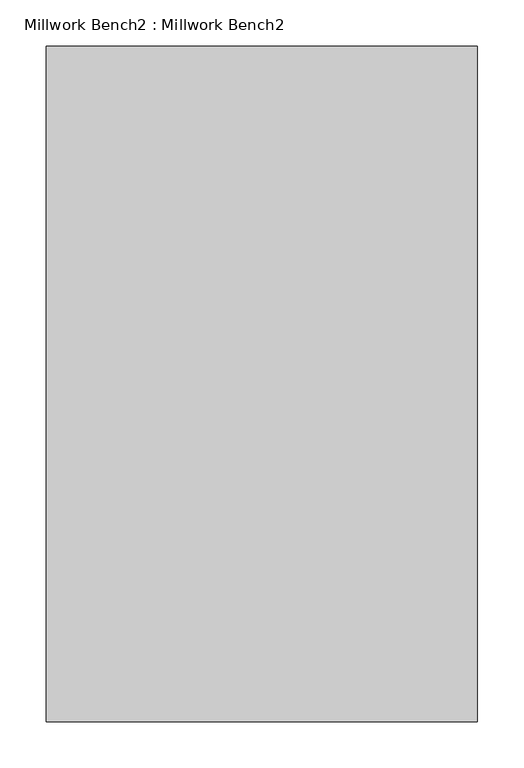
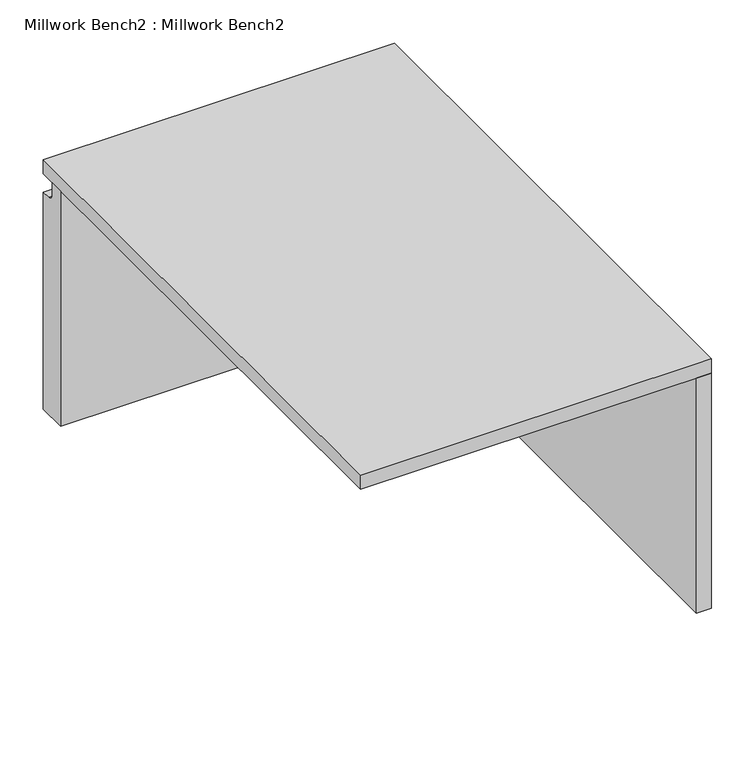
"""IFC4 building model written with IfcOpenShell, lengths in millimetres: plate geometry, Millwork Bench2 : Millwork Bench2."""

import ifcopenshell
import ifcopenshell.guid

model = None  # the IFC model being written
_history = None  # IfcOwnerHistory: only IFC2X3 demands one
_inside = {}  # id of a spatial element -> (the spatial element, [elements in it])
_under = {}  # id of a project, library or spatial element -> (it, [spatial elements below it])
_declared = {}  # id of a project -> (the project, [libraries it declares])
_typed = {}  # id of a type object -> (the type object, [elements of that type])
_made_of = {}  # id of a material, layer set ... -> (it, [elements and type objects made of it])


def new_model(schema):
    """Start an empty IFC model of exactly this schema.

    Asked for "IFC4X3", IfcOpenShell would pick the latest addendum, in which some entities
    have other attributes; the version numbers below select the first issue.
    IFC2X3 requires an IfcOwnerHistory on every rooted entity: one is made here for all.
    """
    global model, _history
    if schema == "IFC4X3":
        model = ifcopenshell.file(schema_version=(4, 3, 0, 0))
    else:
        model = ifcopenshell.file(schema=schema)
    _inside.clear()
    _under.clear()
    _declared.clear()
    _typed.clear()
    _made_of.clear()
    _history = None
    if model.schema == "IFC2X3":
        org = make("IfcOrganization", Name="unknown")
        user = make(
            "IfcPersonAndOrganization",
            ThePerson=make("IfcPerson", FamilyName="unknown"),
            TheOrganization=org,
        )
        app = make(
            "IfcApplication",
            ApplicationDeveloper=org,
            Version="unknown",
            ApplicationFullName="unknown",
            ApplicationIdentifier="unknown",
        )
        _history = make(
            "IfcOwnerHistory",
            OwningUser=user,
            OwningApplication=app,
            ChangeAction="ADDED",
            CreationDate=0,
        )
    return model


def make(cls, **values):
    """One entity of the class cls with the attributes given. An attribute that is None is left unset."""
    return model.create_entity(
        cls, **{name: value for name, value in values.items() if value is not None}
    )


def rooted(cls, **values):
    """An entity with a GlobalId (a new one), such as an element, a storey or a relation."""
    return make(cls, GlobalId=ifcopenshell.guid.new(), OwnerHistory=_history, **values)


def si_unit(unit_type, name, prefix=None):
    """IfcSIUnit, for example si_unit("LENGTHUNIT", "METRE", prefix="MILLI")."""
    return make("IfcSIUnit", UnitType=unit_type, Prefix=prefix, Name=name)


def assignment(units):
    """IfcUnitAssignment: the units of a project."""
    return None if units is None else make("IfcUnitAssignment", Units=units)


def point(xyz):
    """IfcCartesianPoint."""
    return None if xyz is None else make("IfcCartesianPoint", Coordinates=xyz)


def direction(xyz):
    """IfcDirection."""
    return None if xyz is None else make("IfcDirection", DirectionRatios=xyz)


def frame(location, z_axis=None, x_axis=None):
    """IfcAxis2Placement3D, a coordinate frame: its origin and axes. An axis left out is left unset."""
    return make(
        "IfcAxis2Placement3D",
        Location=point(location),
        Axis=direction(z_axis),
        RefDirection=direction(x_axis),
    )


def frame_2d(location, x_axis=None):
    """IfcAxis2Placement2D, a coordinate frame in the plane: its origin and x axis."""
    return make(
        "IfcAxis2Placement2D", Location=point(location), RefDirection=direction(x_axis)
    )


def origin():
    """The frame at (0, 0, 0) with its axes left unset."""
    return frame((0.0, 0.0, 0.0))


def origin_with_axes():
    """The frame at (0, 0, 0) with the z axis (0, 0, 1) and the x axis (1, 0, 0) written out."""
    return frame((0.0, 0.0, 0.0), z_axis=(0.0, 0.0, 1.0), x_axis=(1.0, 0.0, 0.0))


def place(relative_to, where):
    """IfcLocalPlacement: puts the frame where relative to a parent placement (None: the world)."""
    return make(
        "IfcLocalPlacement", PlacementRelTo=relative_to, RelativePlacement=where
    )


def context(
    kind, dimensions, precision=None, world=None, true_north=None, identifier=None
):
    """IfcGeometricRepresentationContext, for example the 3D "Model" context."""
    return make(
        "IfcGeometricRepresentationContext",
        ContextIdentifier=identifier,
        ContextType=kind,
        CoordinateSpaceDimension=dimensions,
        Precision=precision,
        WorldCoordinateSystem=world,
        TrueNorth=true_north,
    )


def project(units=None, contexts=None):
    """IfcProject with its units and contexts."""
    return rooted(
        "IfcProject",
        Name="project",
        RepresentationContexts=contexts,
        UnitsInContext=assignment(units),
    )


def spatial(cls, under=None, at=None, **own):
    """A site, building, storey or space (cls), placed at a placement, below another one or the project."""
    s = rooted(cls, ObjectPlacement=at, **own)
    if under is not None:
        _under.setdefault(under.id(), (under, []))[1].append(s)
    return s


def polyline(points):
    """IfcPolyline through the points."""
    return make("IfcPolyline", Points=[point(p) for p in points])


def circle_curve(where, radius):
    """IfcCircle in the frame where."""
    return make("IfcCircle", Position=where, Radius=radius)


def trimmed(basis, trim1, trim2, sense, master):
    """IfcTrimmedCurve: the piece of a basis curve between two trims."""
    return make(
        "IfcTrimmedCurve",
        BasisCurve=basis,
        Trim1=trim1,
        Trim2=trim2,
        SenseAgreement=sense,
        MasterRepresentation=master,
    )


def segment(curve, same_sense, transition):
    """IfcCompositeCurveSegment."""
    return make(
        "IfcCompositeCurveSegment",
        Transition=transition,
        SameSense=same_sense,
        ParentCurve=curve,
    )


def composite_curve(segments, self_intersect=None):
    """IfcCompositeCurve: segments joined end to end."""
    return make("IfcCompositeCurve", Segments=segments, SelfIntersect=self_intersect)


def outline(outer, holes=None, kind="AREA"):
    """IfcArbitraryClosedProfileDef: a profile drawn as a closed curve; with holes, ...WithVoids."""
    if holes is None:
        return make("IfcArbitraryClosedProfileDef", ProfileType=kind, OuterCurve=outer)
    return make(
        "IfcArbitraryProfileDefWithVoids",
        ProfileType=kind,
        OuterCurve=outer,
        InnerCurves=holes,
    )


def extrude(swept, where, along, depth):
    """IfcExtrudedAreaSolid: the profile swept, set in the frame where, extruded along a direction by depth."""
    return make(
        "IfcExtrudedAreaSolid",
        SweptArea=swept,
        Position=where,
        ExtrudedDirection=direction(along),
        Depth=depth,
    )


def shape(context_of_items, identifier, shape_type, items):
    """IfcShapeRepresentation: the items that make up one representation, for example the "Body"."""
    return make(
        "IfcShapeRepresentation",
        ContextOfItems=context_of_items,
        RepresentationIdentifier=identifier,
        RepresentationType=shape_type,
        Items=items,
    )


def source(mapping_origin, context_of_items, identifier, shape_type, items):
    """IfcRepresentationMap: a shape defined once, which mapped items show again and again."""
    return make(
        "IfcRepresentationMap",
        MappingOrigin=mapping_origin,
        MappedRepresentation=shape(context_of_items, identifier, shape_type, items),
    )


def transform(
    local_origin,
    x_axis=None,
    y_axis=None,
    z_axis=None,
    scale=None,
    scale2=None,
    scale3=None,
    uniform=True,
):
    """IfcCartesianTransformationOperator3D, or its non-uniform kind. x_axis, y_axis, z_axis: its Axis1, 2, 3."""
    if uniform:
        return make(
            "IfcCartesianTransformationOperator3D",
            Axis1=direction(x_axis),
            Axis2=direction(y_axis),
            LocalOrigin=point(local_origin),
            Scale=scale,
            Axis3=direction(z_axis),
        )
    return make(
        "IfcCartesianTransformationOperator3DnonUniform",
        Axis1=direction(x_axis),
        Axis2=direction(y_axis),
        LocalOrigin=point(local_origin),
        Scale=scale,
        Axis3=direction(z_axis),
        Scale2=scale2,
        Scale3=scale3,
    )


def mapped(mapping_source, mapping_target):
    """IfcMappedItem: shows the shape of a source again, moved by a transform."""
    return make(
        "IfcMappedItem", MappingSource=mapping_source, MappingTarget=mapping_target
    )


def made_of(thing, what):
    """Note that an element or type object is made of a material, layer set ...; save() writes the relation."""
    if what is not None:
        _made_of.setdefault(what.id(), (what, []))[1].append(thing)
    return thing


def element(
    cls,
    number,
    at=None,
    inside=None,
    cuts=None,
    type_object=None,
    material=None,
    context=None,
    identifier="Body",
    shape_type=None,
    held_by="IfcProductDefinitionShape",
    body=None,
    shapes=None,
    **own,
):
    """One element of the class cls, such as IfcWall. Its Tag is "e" and its number.

    at: its placement. inside: the storey or other place that contains it. cuts: it is an
    opening in that element (IfcRelVoidsElement). A single representation is given by context,
    identifier, shape_type and body (its items); several are given by shapes. held_by: the class
    of the entity that holds the representations. save() writes the other relations.
    """
    e = rooted(cls, Tag="e%d" % number, ObjectPlacement=at, **own)
    if body is not None:
        shapes = [shape(context, identifier, shape_type, body)]
    if shapes is not None:
        e.Representation = make(held_by, Representations=shapes)
    if inside is not None:
        _inside.setdefault(inside.id(), (inside, []))[1].append(e)
    if cuts is not None:
        rooted(
            "IfcRelVoidsElement", RelatingBuildingElement=cuts, RelatedOpeningElement=e
        )
    if type_object is not None:
        _typed.setdefault(type_object.id(), (type_object, []))[1].append(e)
    return made_of(e, material)


def aggregate(whole, parts):
    """IfcRelAggregates: a whole, such as a stair, and the parts it consists of."""
    return rooted("IfcRelAggregates", RelatingObject=whole, RelatedObjects=parts)


def save(model, path):
    """Write the relations noted so far, then the file.

    IfcRelAggregates (storeys below a building ...), IfcRelContainedInSpatialStructure (elements
    in a storey), IfcRelDefinesByType, IfcRelAssociatesMaterial and IfcRelDeclares: one each for
    every whole, place, type object, material and project.
    """
    for whole, parts in _under.values():
        aggregate(whole, parts)
    for where, things in _inside.values():
        rooted(
            "IfcRelContainedInSpatialStructure",
            RelatedElements=things,
            RelatingStructure=where,
        )
    for kind, things in _typed.values():
        rooted("IfcRelDefinesByType", RelatedObjects=things, RelatingType=kind)
    for what, things in _made_of.values():
        rooted("IfcRelAssociatesMaterial", RelatedObjects=things, RelatingMaterial=what)
    for by, libraries in _declared.values():
        rooted("IfcRelDeclares", RelatingContext=by, RelatedDefinitions=libraries)
    model.write(path)


def millwork_bench2_millwork_bench2_b35541bf(model_context):
    return source(origin(), model_context, "Body", "SweptSolid", [
        extrude(outline(polyline([(212.992966, 690.0), (232.992966, 690.0), (232.992966, 0.0), (212.992966, 0.0), (212.992966, 690.0)])), origin_with_axes(), (0.0, 0.0, 1.0), 330.0),
        extrude(outline(composite_curve([segment(polyline([(730.0, 304.4307002), (730.0, 0.0), (690.0, 0.0), (690.0, 330.0), (710.0, 330.0), (710.0, 312.4307002)]), True, "CONTINUOUS"), segment(trimmed(circle_curve(frame_2d((718.0, 312.4307002)), 8.0), [point((710.0, 312.4307002))], [point((718.0, 304.4307002))], True, "CARTESIAN"), True, "CONTINUOUS"), segment(polyline([(718.0, 304.4307002), (730.0, 304.4307002)]), True, "CONTINUOUS")], self_intersect=False)), frame((-232.992966, 0.0, 0.0), z_axis=(1.0, 0.0, 0.0), x_axis=(0.0, 1.0, 0.0)), (0.0, 0.0, 1.0), 465.985932),
        extrude(outline(polyline([(232.992966, 730.0), (232.992966, 0.0), (-232.992966, 0.0), (-232.992966, 730.0), (232.992966, 730.0)])), frame((0.0, 0.0, 330.0), z_axis=(0.0, 0.0, 1.0), x_axis=(1.0, 0.0, 0.0)), (0.0, 0.0, 1.0), 20.0),
    ])


if __name__ == "__main__":
    model = new_model("IFC4")
    model_context = context("Model", 3, world=origin())
    ifc_project = project(units=[si_unit("LENGTHUNIT", "METRE", prefix="MILLI")], contexts=[model_context])
    site = spatial("IfcSite", under=ifc_project)
    building = spatial("IfcBuilding", under=site)
    placement = place(None, origin())
    millwork_bench2_millwork_bench2_shape = millwork_bench2_millwork_bench2_b35541bf(model_context)
    element("IfcPlate", 1, ObjectType="Millwork Bench2 : Millwork Bench2", at=placement, inside=building, context=model_context, shape_type="MappedRepresentation", body=[
        mapped(millwork_bench2_millwork_bench2_shape, transform((0.0, 0.0, 0.0), x_axis=(1.0, 0.0, 0.0), y_axis=(0.0, 1.0, 0.0), z_axis=(0.0, 0.0, 1.0))),
    ])
    save(model, "model.ifc")
